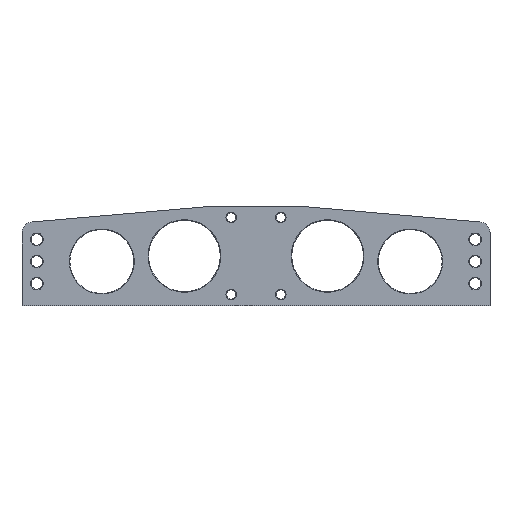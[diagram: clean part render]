
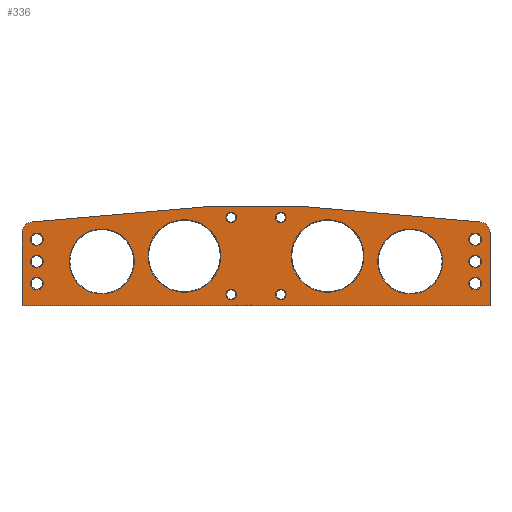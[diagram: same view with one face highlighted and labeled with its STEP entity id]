
A CAD part, top view. The second image highlights one B-rep face of the part: STEP entity #336.
In plain terms, the highlighted planar face has unit normal (0, 0, 1).
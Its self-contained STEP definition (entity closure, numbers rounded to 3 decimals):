
#152=FACE_BOUND('',#418,.T.);
#153=FACE_BOUND('',#419,.T.);
#154=FACE_BOUND('',#420,.T.);
#155=FACE_BOUND('',#421,.T.);
#156=FACE_BOUND('',#422,.T.);
#157=FACE_BOUND('',#423,.T.);
#158=FACE_BOUND('',#424,.T.);
#159=FACE_BOUND('',#425,.T.);
#160=FACE_BOUND('',#426,.T.);
#161=FACE_BOUND('',#427,.T.);
#162=FACE_BOUND('',#428,.T.);
#163=FACE_BOUND('',#429,.T.);
#164=FACE_BOUND('',#430,.T.);
#165=FACE_BOUND('',#431,.T.);
#166=FACE_BOUND('',#432,.T.);
#255=CIRCLE('',#861,10.);
#283=CIRCLE('',#906,10.);
#286=CIRCLE('',#911,29.5);
#287=CIRCLE('',#912,33.);
#288=CIRCLE('',#913,29.5);
#289=CIRCLE('',#914,33.);
#290=CIRCLE('',#915,4.75);
#291=CIRCLE('',#916,4.75);
#292=CIRCLE('',#917,4.75);
#293=CIRCLE('',#918,4.75);
#294=CIRCLE('',#919,5.75);
#295=CIRCLE('',#920,5.75);
#296=CIRCLE('',#921,5.75);
#297=CIRCLE('',#922,5.75);
#298=CIRCLE('',#923,5.75);
#299=CIRCLE('',#924,5.75);
#336=ADVANCED_FACE('',(#152,#153,#154,#155,#156,#157,#158,#159,#160,#161,
#162,#163,#164,#165,#166),#372,.F.);
#372=PLANE('',#925);
#418=EDGE_LOOP('',(#564));
#419=EDGE_LOOP('',(#565));
#420=EDGE_LOOP('',(#566));
#421=EDGE_LOOP('',(#567));
#422=EDGE_LOOP('',(#568));
#423=EDGE_LOOP('',(#569));
#424=EDGE_LOOP('',(#570));
#425=EDGE_LOOP('',(#571));
#426=EDGE_LOOP('',(#572));
#427=EDGE_LOOP('',(#573));
#428=EDGE_LOOP('',(#574));
#429=EDGE_LOOP('',(#575));
#430=EDGE_LOOP('',(#576));
#431=EDGE_LOOP('',(#577));
#432=EDGE_LOOP('',(#578,#579,#580,#581,#582,#583,#584,#585));
#564=ORIENTED_EDGE('',*,*,#788,.T.);
#565=ORIENTED_EDGE('',*,*,#789,.T.);
#566=ORIENTED_EDGE('',*,*,#790,.T.);
#567=ORIENTED_EDGE('',*,*,#791,.T.);
#568=ORIENTED_EDGE('',*,*,#792,.T.);
#569=ORIENTED_EDGE('',*,*,#793,.T.);
#570=ORIENTED_EDGE('',*,*,#794,.T.);
#571=ORIENTED_EDGE('',*,*,#795,.T.);
#572=ORIENTED_EDGE('',*,*,#796,.T.);
#573=ORIENTED_EDGE('',*,*,#797,.T.);
#574=ORIENTED_EDGE('',*,*,#798,.T.);
#575=ORIENTED_EDGE('',*,*,#799,.T.);
#576=ORIENTED_EDGE('',*,*,#800,.T.);
#577=ORIENTED_EDGE('',*,*,#801,.T.);
#578=ORIENTED_EDGE('',*,*,#738,.F.);
#579=ORIENTED_EDGE('',*,*,#785,.F.);
#580=ORIENTED_EDGE('',*,*,#756,.F.);
#581=ORIENTED_EDGE('',*,*,#753,.F.);
#582=ORIENTED_EDGE('',*,*,#750,.F.);
#583=ORIENTED_EDGE('',*,*,#747,.F.);
#584=ORIENTED_EDGE('',*,*,#744,.F.);
#585=ORIENTED_EDGE('',*,*,#741,.F.);
#666=VERTEX_POINT('',#1220);
#667=VERTEX_POINT('',#1222);
#669=VERTEX_POINT('',#1228);
#671=VERTEX_POINT('',#1234);
#673=VERTEX_POINT('',#1240);
#675=VERTEX_POINT('',#1246);
#677=VERTEX_POINT('',#1252);
#679=VERTEX_POINT('',#1258);
#708=VERTEX_POINT('',#1335);
#709=VERTEX_POINT('',#1337);
#710=VERTEX_POINT('',#1339);
#711=VERTEX_POINT('',#1341);
#712=VERTEX_POINT('',#1343);
#713=VERTEX_POINT('',#1345);
#714=VERTEX_POINT('',#1347);
#715=VERTEX_POINT('',#1349);
#716=VERTEX_POINT('',#1351);
#717=VERTEX_POINT('',#1353);
#718=VERTEX_POINT('',#1355);
#719=VERTEX_POINT('',#1357);
#720=VERTEX_POINT('',#1359);
#721=VERTEX_POINT('',#1361);
#738=EDGE_CURVE('',#666,#667,#818,.T.);
#741=EDGE_CURVE('',#667,#669,#821,.T.);
#744=EDGE_CURVE('',#669,#671,#824,.T.);
#747=EDGE_CURVE('',#671,#673,#255,.T.);
#750=EDGE_CURVE('',#673,#675,#828,.T.);
#753=EDGE_CURVE('',#675,#677,#831,.T.);
#756=EDGE_CURVE('',#677,#679,#834,.T.);
#785=EDGE_CURVE('',#679,#666,#283,.T.);
#788=EDGE_CURVE('',#708,#708,#286,.T.);
#789=EDGE_CURVE('',#709,#709,#287,.T.);
#790=EDGE_CURVE('',#710,#710,#288,.T.);
#791=EDGE_CURVE('',#711,#711,#289,.T.);
#792=EDGE_CURVE('',#712,#712,#290,.T.);
#793=EDGE_CURVE('',#713,#713,#291,.T.);
#794=EDGE_CURVE('',#714,#714,#292,.T.);
#795=EDGE_CURVE('',#715,#715,#293,.T.);
#796=EDGE_CURVE('',#716,#716,#294,.T.);
#797=EDGE_CURVE('',#717,#717,#295,.T.);
#798=EDGE_CURVE('',#718,#718,#296,.T.);
#799=EDGE_CURVE('',#719,#719,#297,.T.);
#800=EDGE_CURVE('',#720,#720,#298,.T.);
#801=EDGE_CURVE('',#721,#721,#299,.T.);
#818=LINE('',#1221,#838);
#821=LINE('',#1227,#841);
#824=LINE('',#1233,#844);
#828=LINE('',#1245,#848);
#831=LINE('',#1251,#851);
#834=LINE('',#1257,#854);
#838=VECTOR('',#973,1.);
#841=VECTOR('',#978,1.);
#844=VECTOR('',#983,1.);
#848=VECTOR('',#995,1.);
#851=VECTOR('',#1000,1.);
#854=VECTOR('',#1005,1.);
#861=AXIS2_PLACEMENT_3D('',#1239,#989,#990);
#906=AXIS2_PLACEMENT_3D('',#1327,#1089,#1090);
#911=AXIS2_PLACEMENT_3D('',#1334,#1099,#1100);
#912=AXIS2_PLACEMENT_3D('',#1336,#1101,#1102);
#913=AXIS2_PLACEMENT_3D('',#1338,#1103,#1104);
#914=AXIS2_PLACEMENT_3D('',#1340,#1105,#1106);
#915=AXIS2_PLACEMENT_3D('',#1342,#1107,#1108);
#916=AXIS2_PLACEMENT_3D('',#1344,#1109,#1110);
#917=AXIS2_PLACEMENT_3D('',#1346,#1111,#1112);
#918=AXIS2_PLACEMENT_3D('',#1348,#1113,#1114);
#919=AXIS2_PLACEMENT_3D('',#1350,#1115,#1116);
#920=AXIS2_PLACEMENT_3D('',#1352,#1117,#1118);
#921=AXIS2_PLACEMENT_3D('',#1354,#1119,#1120);
#922=AXIS2_PLACEMENT_3D('',#1356,#1121,#1122);
#923=AXIS2_PLACEMENT_3D('',#1358,#1123,#1124);
#924=AXIS2_PLACEMENT_3D('',#1360,#1125,#1126);
#925=AXIS2_PLACEMENT_3D('',#1362,#1127,#1128);
#973=DIRECTION('',(0.996,0.087,0.));
#978=DIRECTION('',(1.,0.,0.));
#983=DIRECTION('',(0.996,-0.087,0.));
#989=DIRECTION('',(0.,0.,-1.));
#990=DIRECTION('',(1.,0.,0.));
#995=DIRECTION('',(0.,-1.,0.));
#1000=DIRECTION('',(-1.,0.,0.));
#1005=DIRECTION('',(0.,1.,0.));
#1089=DIRECTION('',(0.,0.,-1.));
#1090=DIRECTION('',(-1.,0.,0.));
#1099=DIRECTION('',(0.,0.,-1.));
#1100=DIRECTION('',(-1.,0.,0.));
#1101=DIRECTION('',(0.,0.,-1.));
#1102=DIRECTION('',(-1.,0.,0.));
#1103=DIRECTION('',(0.,0.,-1.));
#1104=DIRECTION('',(-1.,0.,0.));
#1105=DIRECTION('',(0.,0.,-1.));
#1106=DIRECTION('',(-1.,0.,0.));
#1107=DIRECTION('',(0.,0.,-1.));
#1108=DIRECTION('',(-1.,0.,0.));
#1109=DIRECTION('',(0.,0.,-1.));
#1110=DIRECTION('',(-1.,0.,0.));
#1111=DIRECTION('',(0.,0.,-1.));
#1112=DIRECTION('',(-1.,0.,0.));
#1113=DIRECTION('',(0.,0.,-1.));
#1114=DIRECTION('',(-1.,0.,0.));
#1115=DIRECTION('',(0.,0.,-1.));
#1116=DIRECTION('',(-1.,0.,0.));
#1117=DIRECTION('',(0.,0.,-1.));
#1118=DIRECTION('',(-1.,0.,0.));
#1119=DIRECTION('',(0.,0.,-1.));
#1120=DIRECTION('',(-1.,0.,0.));
#1121=DIRECTION('',(0.,0.,-1.));
#1122=DIRECTION('',(-1.,0.,0.));
#1123=DIRECTION('',(0.,0.,-1.));
#1124=DIRECTION('',(-1.,0.,0.));
#1125=DIRECTION('',(0.,0.,-1.));
#1126=DIRECTION('',(-1.,0.,0.));
#1127=DIRECTION('',(0.,0.,-1.));
#1128=DIRECTION('',(-1.,0.,0.));
#1220=CARTESIAN_POINT('',(-203.372,80.926,8.));
#1221=CARTESIAN_POINT('',(-203.372,80.926,8.));
#1222=CARTESIAN_POINT('',(-42.5,95.,8.));
#1227=CARTESIAN_POINT('',(-42.5,95.,8.));
#1228=CARTESIAN_POINT('',(42.5,95.,8.));
#1233=CARTESIAN_POINT('',(42.5,95.,8.));
#1234=CARTESIAN_POINT('',(203.372,80.926,8.));
#1239=CARTESIAN_POINT('',(202.5,70.964,8.));
#1240=CARTESIAN_POINT('',(212.5,70.964,8.));
#1245=CARTESIAN_POINT('',(212.5,70.964,8.));
#1246=CARTESIAN_POINT('',(212.5,5.,8.));
#1251=CARTESIAN_POINT('',(212.5,5.,8.));
#1252=CARTESIAN_POINT('',(-212.5,5.,8.));
#1257=CARTESIAN_POINT('',(-212.5,5.,8.));
#1258=CARTESIAN_POINT('',(-212.5,70.964,8.));
#1327=CARTESIAN_POINT('',(-202.5,70.964,8.));
#1334=CARTESIAN_POINT('',(-140.,45.,8.));
#1335=CARTESIAN_POINT('',(-169.5,45.,8.));
#1336=CARTESIAN_POINT('',(-65.,50.,8.));
#1337=CARTESIAN_POINT('',(-98.,50.,8.));
#1338=CARTESIAN_POINT('',(140.,45.,8.));
#1339=CARTESIAN_POINT('',(110.5,45.,8.));
#1340=CARTESIAN_POINT('',(65.,50.,8.));
#1341=CARTESIAN_POINT('',(32.,50.,8.));
#1342=CARTESIAN_POINT('',(-22.5,85.,8.));
#1343=CARTESIAN_POINT('',(-27.25,85.,8.));
#1344=CARTESIAN_POINT('',(22.5,85.,8.));
#1345=CARTESIAN_POINT('',(17.75,85.,8.));
#1346=CARTESIAN_POINT('',(22.5,15.,8.));
#1347=CARTESIAN_POINT('',(17.75,15.,8.));
#1348=CARTESIAN_POINT('',(-22.5,15.,8.));
#1349=CARTESIAN_POINT('',(-27.25,15.,8.));
#1350=CARTESIAN_POINT('',(199.,25.,8.));
#1351=CARTESIAN_POINT('',(193.25,25.,8.));
#1352=CARTESIAN_POINT('',(199.,45.,8.));
#1353=CARTESIAN_POINT('',(193.25,45.,8.));
#1354=CARTESIAN_POINT('',(199.,65.,8.));
#1355=CARTESIAN_POINT('',(193.25,65.,8.));
#1356=CARTESIAN_POINT('',(-199.,65.,8.));
#1357=CARTESIAN_POINT('',(-204.75,65.,8.));
#1358=CARTESIAN_POINT('',(-199.,45.,8.));
#1359=CARTESIAN_POINT('',(-204.75,45.,8.));
#1360=CARTESIAN_POINT('',(-199.,25.,8.));
#1361=CARTESIAN_POINT('',(-204.75,25.,8.));
#1362=CARTESIAN_POINT('',(202.5,70.964,8.));
